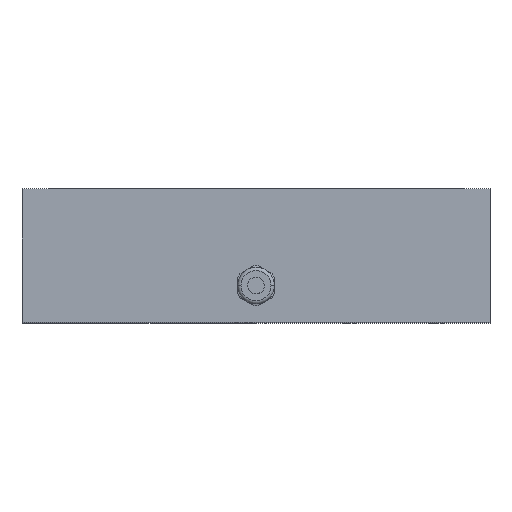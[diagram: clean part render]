
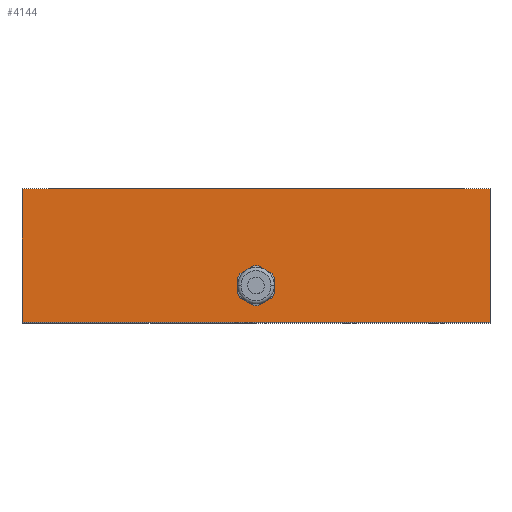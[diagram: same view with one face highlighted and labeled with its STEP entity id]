
A CAD part, top view. The second image highlights one B-rep face of the part: STEP entity #4144.
In plain terms, the highlighted planar face has unit normal (0, 0, 1).
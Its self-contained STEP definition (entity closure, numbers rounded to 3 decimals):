
#13 = CARTESIAN_POINT ( 'NONE',  ( -70., 40., 70. ) ) ;
#144 = CARTESIAN_POINT ( 'NONE',  ( -70., 0., 70. ) ) ;
#219 = EDGE_CURVE ( 'NONE', #747, #2160, #4049, .T. ) ;
#288 = EDGE_CURVE ( 'NONE', #3340, #747, #2275, .T. ) ;
#403 = DIRECTION ( 'NONE',  ( 0., -1., 0. ) ) ;
#410 = AXIS2_PLACEMENT_3D ( 'NONE', #13, #999, #2124 ) ;
#466 = CARTESIAN_POINT ( 'NONE',  ( -70., 40., 70. ) ) ;
#614 = VECTOR ( 'NONE', #3456, 1000. ) ;
#674 = FACE_OUTER_BOUND ( 'NONE', #3353, .T. ) ;
#747 = VERTEX_POINT ( 'NONE', #2793 ) ;
#847 = CARTESIAN_POINT ( 'NONE',  ( -70., 40., 70. ) ) ;
#984 = VECTOR ( 'NONE', #3713, 1000. ) ;
#999 = DIRECTION ( 'NONE',  ( 0., 0., -1. ) ) ;
#1039 = EDGE_CURVE ( 'NONE', #2480, #2160, #2947, .T. ) ;
#1556 = CARTESIAN_POINT ( 'NONE',  ( 70., 40., 70. ) ) ;
#2011 = ORIENTED_EDGE ( 'NONE', *, *, #288, .T. ) ;
#2124 = DIRECTION ( 'NONE',  ( -1., 0., 0. ) ) ;
#2160 = VERTEX_POINT ( 'NONE', #2182 ) ;
#2182 = CARTESIAN_POINT ( 'NONE',  ( 70., 0., 70. ) ) ;
#2275 = LINE ( 'NONE', #466, #614 ) ;
#2480 = VERTEX_POINT ( 'NONE', #3635 ) ;
#2546 = EDGE_CURVE ( 'NONE', #3340, #2480, #3021, .T. ) ;
#2577 = ORIENTED_EDGE ( 'NONE', *, *, #1039, .F. ) ;
#2691 = DIRECTION ( 'NONE',  ( 1., 0., 0. ) ) ;
#2758 = VECTOR ( 'NONE', #403, 1000. ) ;
#2793 = CARTESIAN_POINT ( 'NONE',  ( -70., 0., 70. ) ) ;
#2947 = LINE ( 'NONE', #1556, #2758 ) ;
#3021 = LINE ( 'NONE', #847, #984 ) ;
#3340 = VERTEX_POINT ( 'NONE', #3579 ) ;
#3353 = EDGE_LOOP ( 'NONE', ( #3400, #2577, #4038, #2011 ) ) ;
#3400 = ORIENTED_EDGE ( 'NONE', *, *, #219, .T. ) ;
#3456 = DIRECTION ( 'NONE',  ( 0., -1., 0. ) ) ;
#3566 = PLANE ( 'NONE',  #410 ) ;
#3579 = CARTESIAN_POINT ( 'NONE',  ( -70., 40., 70. ) ) ;
#3635 = CARTESIAN_POINT ( 'NONE',  ( 70., 40., 70. ) ) ;
#3653 = VECTOR ( 'NONE', #2691, 1000. ) ;
#3713 = DIRECTION ( 'NONE',  ( 1., 0., 0. ) ) ;
#4038 = ORIENTED_EDGE ( 'NONE', *, *, #2546, .F. ) ;
#4049 = LINE ( 'NONE', #144, #3653 ) ;
#4144 = ADVANCED_FACE ( 'NONE', ( #674 ), #3566, .F. ) ;
